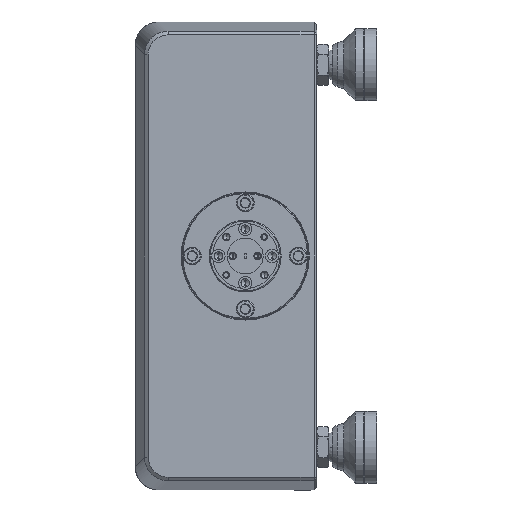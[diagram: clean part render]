
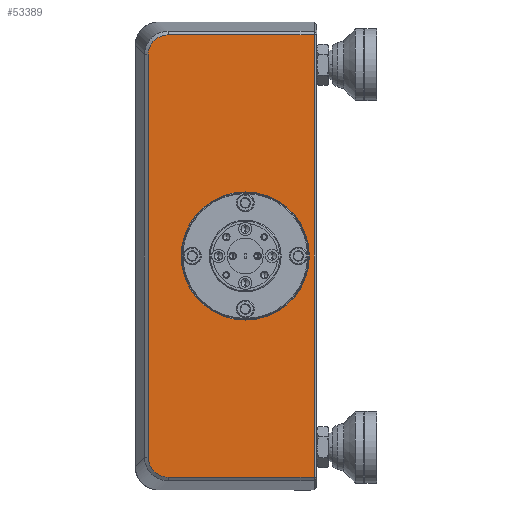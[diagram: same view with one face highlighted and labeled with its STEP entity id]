
A CAD part, left-side view. The second image highlights one B-rep face of the part: STEP entity #53389.
In plain terms, the highlighted planar face has unit normal (-1, 0, 0).
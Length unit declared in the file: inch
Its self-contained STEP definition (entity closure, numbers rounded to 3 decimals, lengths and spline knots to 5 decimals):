
#2957 = CARTESIAN_POINT ( 'NONE',  ( -2.75, -2.40136, -2.31232 ) ) ;
#3005 = PLANE ( 'NONE',  #75657 ) ;
#4602 = CARTESIAN_POINT ( 'NONE',  ( -2.75, -0.67171, 2.15839 ) ) ;
#5055 = EDGE_CURVE ( 'NONE', #39638, #42458, #48552, .T. ) ;
#7059 = LINE ( 'NONE', #38294, #7653 ) ;
#7653 = VECTOR ( 'NONE', #25729, 39.37008 ) ;
#7763 = ORIENTED_EDGE ( 'NONE', *, *, #55388, .T. ) ;
#10560 = CARTESIAN_POINT ( 'NONE',  ( -2.75, -0.76974, 2.28609 ) ) ;
#11855 = CARTESIAN_POINT ( 'NONE',  ( -2.75, -1.48136, 2.31232 ) ) ;
#16332 = LINE ( 'NONE', #41147, #64517 ) ;
#16517 = CARTESIAN_POINT ( 'NONE',  ( -2.75, -0.69252, 2.20886 ) ) ;
#17569 = CARTESIAN_POINT ( 'NONE',  ( -2.75, -0.66628, -2.13089 ) ) ;
#18058 = ORIENTED_EDGE ( 'NONE', *, *, #44943, .T. ) ;
#20087 = EDGE_LOOP ( 'NONE', ( #75584, #20819 ) ) ;
#20290 = CARTESIAN_POINT ( 'NONE',  ( -2.75, -0.8752, 2.31232 ) ) ;
#20819 = ORIENTED_EDGE ( 'NONE', *, *, #62188, .F. ) ;
#21272 = CARTESIAN_POINT ( 'NONE',  ( -2.75, -1.68136, 0. ) ) ;
#22300 = VERTEX_POINT ( 'NONE', #54968 ) ;
#22500 = CARTESIAN_POINT ( 'NONE',  ( -2.75, -0.84772, 2.31233 ) ) ;
#23626 = CARTESIAN_POINT ( 'NONE',  ( -2.75, -1.48136, 0. ) ) ;
#24424 = DIRECTION ( 'NONE',  ( 1., 0., 0. ) ) ;
#25729 = DIRECTION ( 'NONE',  ( 0., 0., -1. ) ) ;
#25982 = B_SPLINE_CURVE_WITH_KNOTS ( 'NONE', 3,
 ( #60431, #17569, #36884, #71613, #59258, #35305, #29422, #30179, #54185, #42372 ),
 .UNSPECIFIED., .F., .F.,
 ( 4, 2, 2, 2, 4 ),
 ( 0., 0.25, 0.5, 0.75, 1. ),
 .UNSPECIFIED. ) ;
#28034 = VECTOR ( 'NONE', #54422, 39.37008 ) ;
#28578 = B_SPLINE_CURVE_WITH_KNOTS ( 'NONE', 3,
 ( #52018, #22500, #34675, #10560, #29186, #64594, #16517, #4602, #46914, #28811 ),
 .UNSPECIFIED., .F., .F.,
 ( 4, 2, 2, 2, 4 ),
 ( 0., 0.25, 0.5, 0.75, 1. ),
 .UNSPECIFIED. ) ;
#28760 = VERTEX_POINT ( 'NONE', #60426 ) ;
#28811 = CARTESIAN_POINT ( 'NONE',  ( -2.75, -0.66628, 2.1034 ) ) ;
#29186 = CARTESIAN_POINT ( 'NONE',  ( -2.75, -0.74651, 2.2706 ) ) ;
#29422 = CARTESIAN_POINT ( 'NONE',  ( -2.75, -0.76974, -2.28609 ) ) ;
#30179 = CARTESIAN_POINT ( 'NONE',  ( -2.75, -0.82021, -2.30689 ) ) ;
#30832 = ORIENTED_EDGE ( 'NONE', *, *, #46722, .T. ) ;
#32054 = CIRCLE ( 'NONE', #38357, 0.67 ) ;
#32562 = CIRCLE ( 'NONE', #33770, 0.67 ) ;
#33077 = FACE_OUTER_BOUND ( 'NONE', #52362, .T. ) ;
#33770 = AXIS2_PLACEMENT_3D ( 'NONE', #21272, #63351, #57430 ) ;
#34675 = CARTESIAN_POINT ( 'NONE',  ( -2.75, -0.82022, 2.30689 ) ) ;
#35305 = CARTESIAN_POINT ( 'NONE',  ( -2.75, -0.7465, -2.27061 ) ) ;
#36451 = ORIENTED_EDGE ( 'NONE', *, *, #5055, .T. ) ;
#36884 = CARTESIAN_POINT ( 'NONE',  ( -2.75, -0.67172, -2.15839 ) ) ;
#38294 = CARTESIAN_POINT ( 'NONE',  ( -2.75, -0.66628, 0. ) ) ;
#38357 = AXIS2_PLACEMENT_3D ( 'NONE', #77693, #66166, #42925 ) ;
#39638 = VERTEX_POINT ( 'NONE', #77725 ) ;
#41147 = CARTESIAN_POINT ( 'NONE',  ( -2.75, -2.40136, 0. ) ) ;
#42200 = ORIENTED_EDGE ( 'NONE', *, *, #74271, .T. ) ;
#42372 = CARTESIAN_POINT ( 'NONE',  ( -2.75, -0.8752, -2.31232 ) ) ;
#42458 = VERTEX_POINT ( 'NONE', #20290 ) ;
#42925 = DIRECTION ( 'NONE',  ( 0., 0., 1. ) ) ;
#44943 = EDGE_CURVE ( 'NONE', #67948, #28760, #7059, .T. ) ;
#45987 = VERTEX_POINT ( 'NONE', #2957 ) ;
#46722 = EDGE_CURVE ( 'NONE', #42458, #67948, #28578, .T. ) ;
#46831 = LINE ( 'NONE', #64092, #59664 ) ;
#46914 = CARTESIAN_POINT ( 'NONE',  ( -2.75, -0.66628, 2.13095 ) ) ;
#47645 = DIRECTION ( 'NONE',  ( 0., 0., -1. ) ) ;
#48552 = LINE ( 'NONE', #11855, #28034 ) ;
#52018 = CARTESIAN_POINT ( 'NONE',  ( -2.75, -0.8752, 2.31232 ) ) ;
#52362 = EDGE_LOOP ( 'NONE', ( #63809, #7763, #42200, #36451, #30832, #18058 ) ) ;
#53389 = ADVANCED_FACE ( 'NONE', ( #33077, #57077 ), #3005, .F. ) ;
#54068 = CARTESIAN_POINT ( 'NONE',  ( -2.75, -1.68136, -0.67 ) ) ;
#54185 = CARTESIAN_POINT ( 'NONE',  ( -2.75, -0.84766, -2.31233 ) ) ;
#54422 = DIRECTION ( 'NONE',  ( 0., 1., 0. ) ) ;
#54968 = CARTESIAN_POINT ( 'NONE',  ( -2.75, -1.68136, 0.67 ) ) ;
#55388 = EDGE_CURVE ( 'NONE', #67232, #45987, #46831, .T. ) ;
#55627 = VERTEX_POINT ( 'NONE', #54068 ) ;
#57077 = FACE_BOUND ( 'NONE', #20087, .T. ) ;
#57430 = DIRECTION ( 'NONE',  ( 0., 0., 1. ) ) ;
#58720 = EDGE_CURVE ( 'NONE', #28760, #67232, #25982, .T. ) ;
#59258 = CARTESIAN_POINT ( 'NONE',  ( -2.75, -0.70801, -2.2321 ) ) ;
#59664 = VECTOR ( 'NONE', #65277, 39.37008 ) ;
#60426 = CARTESIAN_POINT ( 'NONE',  ( -2.75, -0.66628, -2.1034 ) ) ;
#60431 = CARTESIAN_POINT ( 'NONE',  ( -2.75, -0.66628, -2.1034 ) ) ;
#62188 = EDGE_CURVE ( 'NONE', #55627, #22300, #32054, .T. ) ;
#63204 = CARTESIAN_POINT ( 'NONE',  ( -2.75, -0.8752, -2.31232 ) ) ;
#63351 = DIRECTION ( 'NONE',  ( -1., 0., 0. ) ) ;
#63809 = ORIENTED_EDGE ( 'NONE', *, *, #58720, .T. ) ;
#64092 = CARTESIAN_POINT ( 'NONE',  ( -2.75, -1.48136, -2.31232 ) ) ;
#64517 = VECTOR ( 'NONE', #70374, 39.37008 ) ;
#64594 = CARTESIAN_POINT ( 'NONE',  ( -2.75, -0.708, 2.2321 ) ) ;
#65277 = DIRECTION ( 'NONE',  ( 0., -1., 0. ) ) ;
#66166 = DIRECTION ( 'NONE',  ( -1., 0., 0. ) ) ;
#67232 = VERTEX_POINT ( 'NONE', #63204 ) ;
#67948 = VERTEX_POINT ( 'NONE', #72142 ) ;
#70374 = DIRECTION ( 'NONE',  ( 0., 0., 1. ) ) ;
#71613 = CARTESIAN_POINT ( 'NONE',  ( -2.75, -0.69251, -2.20886 ) ) ;
#72142 = CARTESIAN_POINT ( 'NONE',  ( -2.75, -0.66628, 2.1034 ) ) ;
#72581 = EDGE_CURVE ( 'NONE', #22300, #55627, #32562, .T. ) ;
#74271 = EDGE_CURVE ( 'NONE', #45987, #39638, #16332, .T. ) ;
#75584 = ORIENTED_EDGE ( 'NONE', *, *, #72581, .F. ) ;
#75657 = AXIS2_PLACEMENT_3D ( 'NONE', #23626, #24424, #47645 ) ;
#77693 = CARTESIAN_POINT ( 'NONE',  ( -2.75, -1.68136, 0. ) ) ;
#77725 = CARTESIAN_POINT ( 'NONE',  ( -2.75, -2.40136, 2.31232 ) ) ;
